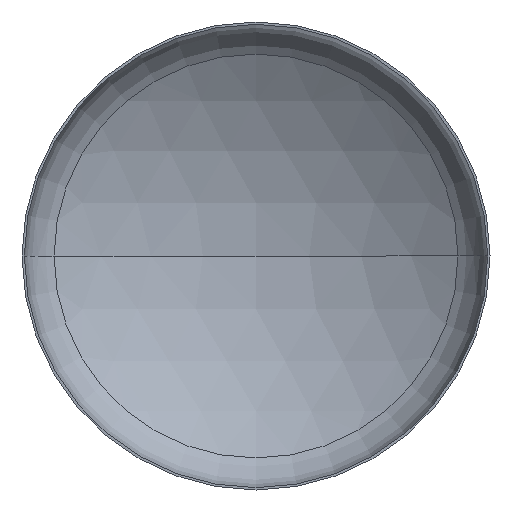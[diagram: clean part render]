
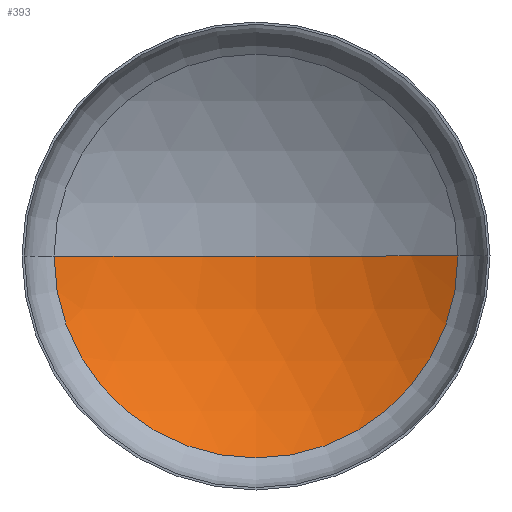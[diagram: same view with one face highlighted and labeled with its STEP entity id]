
A CAD part, front view. The second image highlights one B-rep face of the part: STEP entity #393.
In plain terms, the highlighted spherical face has radius 632 mm.
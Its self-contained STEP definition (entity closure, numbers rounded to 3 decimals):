
#3 = CIRCLE ( 'NONE', #39, 632. ) ;
#9 = ORIENTED_EDGE ( 'NONE', *, *, #233, .T. ) ;
#13 = ORIENTED_EDGE ( 'NONE', *, *, #339, .F. ) ;
#27 = DIRECTION ( 'NONE',  ( 0., 1., 0. ) ) ;
#39 = AXIS2_PLACEMENT_3D ( 'NONE', #228, #363, #298 ) ;
#40 = CIRCLE ( 'NONE', #317, 632. ) ;
#86 = EDGE_LOOP ( 'NONE', ( #100, #9, #13 ) ) ;
#89 = DIRECTION ( 'NONE',  ( 0., 0., -1. ) ) ;
#100 = ORIENTED_EDGE ( 'NONE', *, *, #320, .F. ) ;
#122 = CARTESIAN_POINT ( 'NONE',  ( -345.169, 98.417, 0. ) ) ;
#125 = AXIS2_PLACEMENT_3D ( 'NONE', #374, #27, #235 ) ;
#141 = CIRCLE ( 'NONE', #125, 345.169 ) ;
#144 = VERTEX_POINT ( 'NONE', #263 ) ;
#150 = DIRECTION ( 'NONE',  ( -1., 0., 0. ) ) ;
#175 = AXIS2_PLACEMENT_3D ( 'NONE', #335, #371, #150 ) ;
#218 = VERTEX_POINT ( 'NONE', #269 ) ;
#228 = CARTESIAN_POINT ( 'NONE',  ( 0., -431., 0. ) ) ;
#233 = EDGE_CURVE ( 'NONE', #218, #144, #3, .T. ) ;
#235 = DIRECTION ( 'NONE',  ( -1., 0., 0. ) ) ;
#263 = CARTESIAN_POINT ( 'NONE',  ( 0., 201., 0. ) ) ;
#269 = CARTESIAN_POINT ( 'NONE',  ( 345.169, 98.417, 0. ) ) ;
#270 = FACE_OUTER_BOUND ( 'NONE', #86, .T. ) ;
#291 = VERTEX_POINT ( 'NONE', #122 ) ;
#298 = DIRECTION ( 'NONE',  ( 1., 0., 0. ) ) ;
#309 = DIRECTION ( 'NONE',  ( -1., 0., 0. ) ) ;
#317 = AXIS2_PLACEMENT_3D ( 'NONE', #341, #89, #309 ) ;
#320 = EDGE_CURVE ( 'NONE', #218, #291, #141, .T. ) ;
#332 = SPHERICAL_SURFACE ( 'NONE', #175, 632. ) ;
#335 = CARTESIAN_POINT ( 'NONE',  ( 0., -431., 0. ) ) ;
#339 = EDGE_CURVE ( 'NONE', #291, #144, #40, .T. ) ;
#341 = CARTESIAN_POINT ( 'NONE',  ( 0., -431., 0. ) ) ;
#363 = DIRECTION ( 'NONE',  ( 0., 0., 1. ) ) ;
#371 = DIRECTION ( 'NONE',  ( 0., 0., 1. ) ) ;
#374 = CARTESIAN_POINT ( 'NONE',  ( 0., 98.417, 0. ) ) ;
#393 = ADVANCED_FACE ( 'NONE', ( #270 ), #332, .F. ) ;
